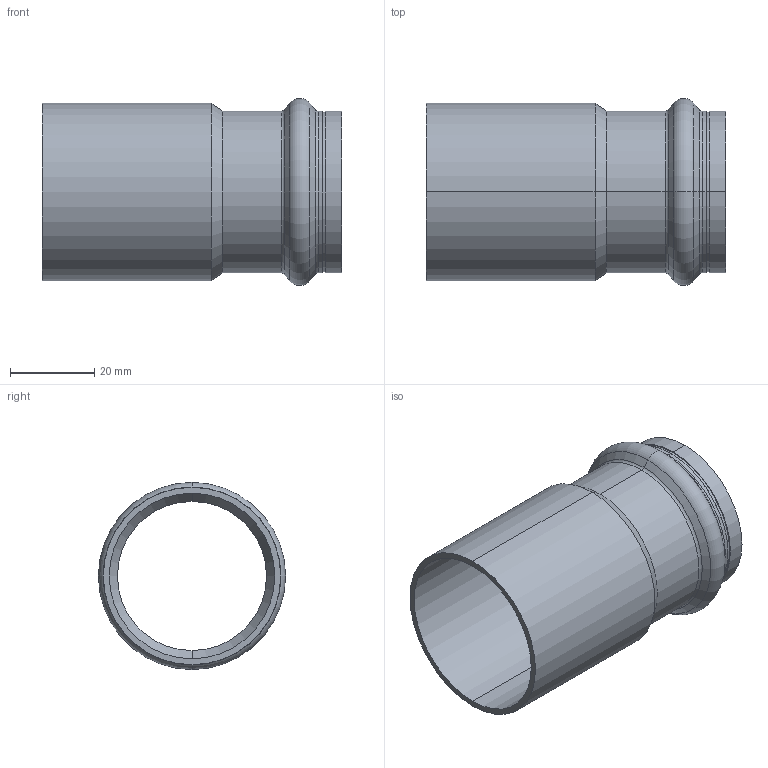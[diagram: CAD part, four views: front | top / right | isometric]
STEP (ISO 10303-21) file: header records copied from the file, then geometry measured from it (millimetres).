
FILE_DESCRIPTION (( 'STEP AP203' ), '1' );
FILE_NAME ('SP5243 42-35.STEP', '2017-04-24T09:06:59', ( '' ), ( '' ), 'SwSTEP 2.0', 'SolidWorks 2016', '' );
FILE_SCHEMA (( 'CONFIG_CONTROL_DESIGN' ));
Length unit declared in the file: millimetre
Products named in the file (1): SP5243 42-35
Bounding box: 71 x 44.3 x 44.3 mm (x, y, z)
Volume: 13185.7 mm3; surface area: 18724.6 mm2
Topology: 1 solids, 1 shells, 44 faces, 88 edges, 48 vertices
Faces by surface type: cylinder 16, torus 12, cone 12, plane 4
Entity records: 1217 total; most frequent: DIRECTION 238, CARTESIAN_POINT 181, ORIENTED_EDGE 176, AXIS2_PLACEMENT_3D 105, EDGE_CURVE 88, CIRCLE 60, EDGE_LOOP 48, VERTEX_POINT 48
